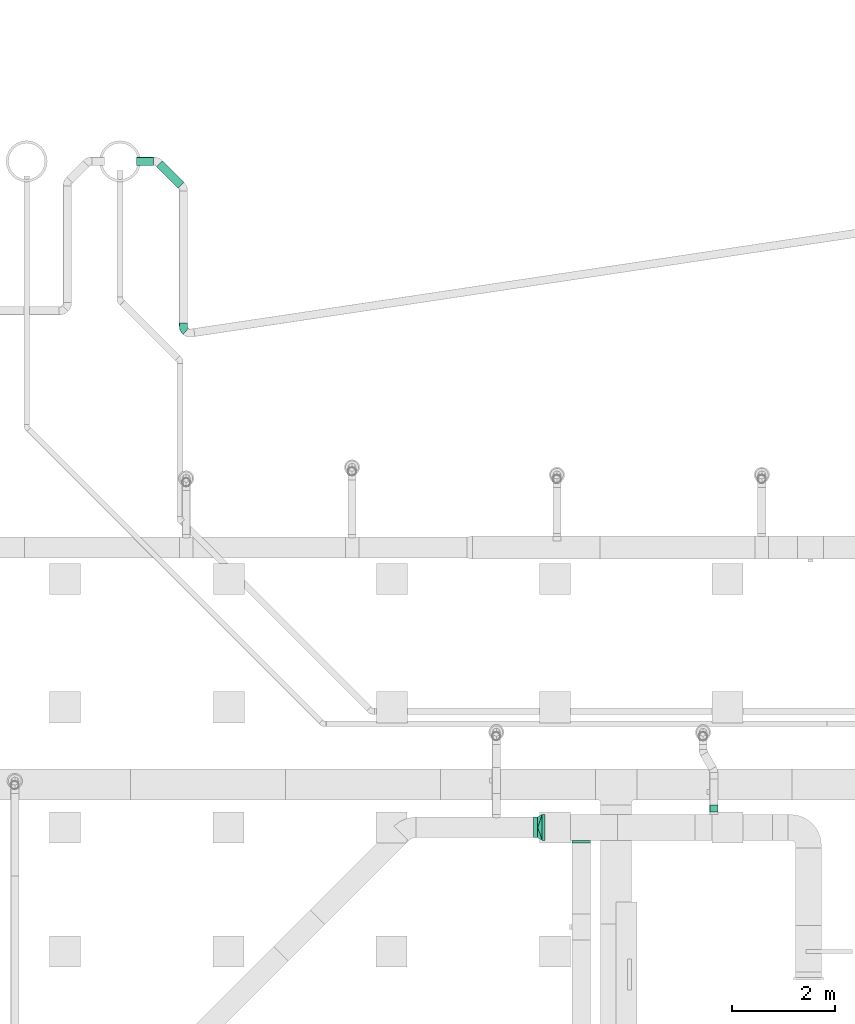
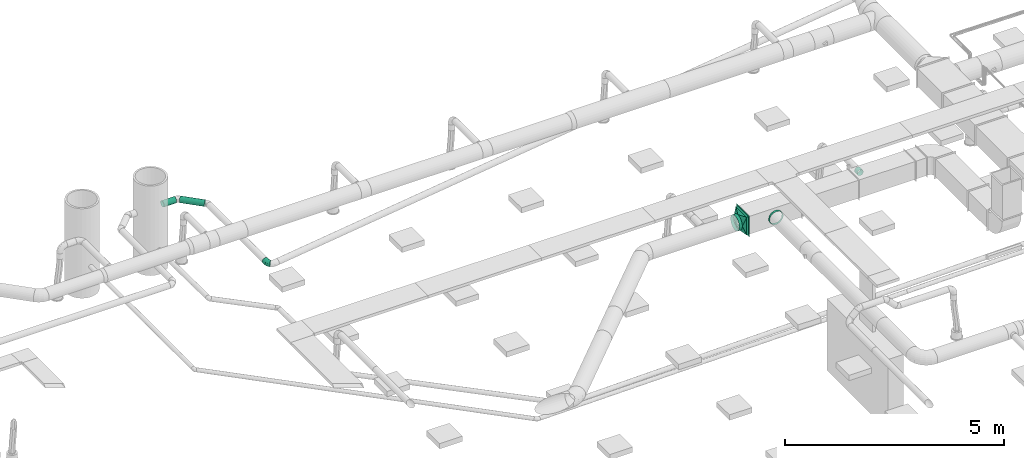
# One storey, part 309 of 374: 4 flow segments, 2 flow fittings.
"""IFC2X3 building model written with IfcOpenShell, lengths in metres."""

from ifc_helpers import new_model, si_unit, direction, origin, place, context, subcontext, project, spatial, open_shell, surface_model, source, transform, mapped, element, save


model = new_model("IFC2X3")

# Units and contexts
model_context = context("Model", 3, precision=1e-05, world=origin(), true_north=direction((-0.4480736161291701, 0.8939966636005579)))
body_context = subcontext(model_context, "Body", "Model", "MODEL_VIEW")
ifc_project = project(units=[si_unit("LENGTHUNIT", "METRE"), si_unit("AREAUNIT", "SQUARE_METRE"), si_unit("VOLUMEUNIT", "CUBIC_METRE"), si_unit("PLANEANGLEUNIT", "RADIAN"), si_unit("THERMODYNAMICTEMPERATUREUNIT", "KELVIN"), si_unit("MASSUNIT", "GRAM", prefix="KILO"), si_unit("TIMEUNIT", "SECOND")], contexts=[model_context])

# Site, building, storey
site_placement = place(None, origin())
site = spatial("IfcSite", under=ifc_project, at=site_placement, Name="Site 1", CompositionType="ELEMENT")
building_placement = place(site_placement, origin())
building = spatial("IfcBuilding", under=site, at=building_placement, Name="Undefined", CompositionType="ELEMENT")
storey_placement = place(building_placement, origin())
storey = spatial("IfcBuildingStorey", under=building, at=storey_placement, Name="Rez de chauss\x8ee", CompositionType="ELEMENT", Elevation=0.0)

# Flow segment
shared_shape_1 = source(origin(), body_context, "Body", "SurfaceModel", [
    surface_model("IfcFaceBasedSurfaceModel", [(0.589931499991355, 0.0, 0.0), (0.5899314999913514, 0.020884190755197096, -8.8817842e-16), (0.0, 0.020884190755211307, 0.0), (0.0, 0.0, 0.0), (0.5899314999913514, 0.04105676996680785, -0.005405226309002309), (0.0, 0.04105676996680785, -0.005405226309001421), (0.589931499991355, 0.059143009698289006, -0.015847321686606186), (0.0, 0.05914300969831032, -0.015847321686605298), (0.5899314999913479, 0.07391036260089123, -0.030614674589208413), (0.0, 0.07391036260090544, -0.030614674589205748), (0.5899314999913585, 0.08435245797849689, -0.048700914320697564), (0.0, 0.0843524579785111, -0.048700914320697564), (0.589931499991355, 0.08975768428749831, -0.06887349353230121), (0.0, 0.08975768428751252, -0.06887349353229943), (0.5899314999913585, 0.08975768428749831, -0.08975768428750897), (0.0, 0.08975768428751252, -0.08975768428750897), (0.5899314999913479, 0.08435245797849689, -0.1099302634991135), (0.0, 0.0843524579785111, -0.10993026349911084), (0.589931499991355, 0.07391036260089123, -0.12801650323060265), (0.0, 0.07391036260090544, -0.12801650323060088), (0.5899314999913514, 0.05914300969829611, -0.142783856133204), (0.0, 0.05914300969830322, -0.1427838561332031), (0.5899314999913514, 0.041056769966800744, -0.15322595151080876), (0.0, 0.04105676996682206, -0.15322595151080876), (0.589931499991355, 0.0208841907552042, -0.15863117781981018), (0.0, 0.020884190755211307, -0.15863117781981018), (0.589931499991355, 0.0, -0.15863117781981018), (0.0, 7.105427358e-15, -0.15863117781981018), (0.5899314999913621, -0.020172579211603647, -0.15322595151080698), (0.0, -0.020172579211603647, -0.15322595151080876), (0.5899314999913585, -0.038258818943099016, -0.1427838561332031), (0.0, -0.038258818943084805, -0.14278385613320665), (0.589931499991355, -0.05302617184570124, -0.12801650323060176), (0.0, -0.05302617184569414, -0.12801650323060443), (0.589931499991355, -0.0634682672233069, -0.10993026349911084), (0.0, -0.06346826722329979, -0.10993026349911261), (0.589931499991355, -0.06887349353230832, -0.08975768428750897), (0.0, -0.06887349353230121, -0.08975768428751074), (0.589931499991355, -0.06887349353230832, -0.06887349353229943), (0.0, -0.06887349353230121, -0.06887349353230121), (0.589931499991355, -0.0634682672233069, -0.048700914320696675), (0.0, -0.06346826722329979, -0.04870091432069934), (0.5899314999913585, -0.05302617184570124, -0.030614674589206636), (0.0, -0.05302617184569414, -0.0306146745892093), (0.5899314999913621, -0.03825881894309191, -0.015847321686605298), (0.0, -0.03825881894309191, -0.015847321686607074), (0.589931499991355, -0.020172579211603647, -0.005405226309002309), (0.0, -0.020172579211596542, -0.005405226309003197)], [open_shell([[[0, 1, 2, 3]], [[1, 4, 5, 2]], [[4, 6, 7, 5]], [[6, 8, 9, 7]], [[8, 10, 11, 9]], [[10, 12, 13, 11]], [[12, 14, 15, 13]], [[14, 16, 17, 15]], [[16, 18, 19, 17]], [[18, 20, 21, 19]], [[20, 22, 23, 21]], [[22, 24, 25, 23]], [[24, 26, 27, 25]], [[26, 28, 29, 27]], [[28, 30, 31, 29]], [[30, 32, 33, 31]], [[32, 34, 35, 33]], [[34, 36, 37, 35]], [[36, 38, 39, 37]], [[38, 40, 41, 39]], [[40, 42, 43, 41]], [[42, 44, 45, 43]], [[44, 46, 47, 45]], [[46, 0, 3, 47]]])]),
])
flow_segment_1_placement = place(storey_placement, origin())
element("IfcFlowSegment", 1, at=flow_segment_1_placement, inside=storey, Name="PE-HD tuyau", ObjectType="PE-HD tuyau", context=body_context, shape_type="MappedRepresentation", body=[
    mapped(shared_shape_1, transform((37.773134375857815, 27.954840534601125, -0.713587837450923), x_axis=(0.7071067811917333, -0.7071067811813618, 0.0), y_axis=(0.7010573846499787, 0.7010573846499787, -0.13052619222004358), z_axis=(0.0922959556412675, 0.0922959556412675, 0.9914448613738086))),
])

# Flow fitting
shared_shape_2 = source(origin(), body_context, "Body", "SurfaceModel", [
    surface_model("IfcFaceBasedSurfaceModel", [(0.06090490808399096, 1.776356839e-15, -1.4210854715e-14), (0.06051561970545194, 0.020880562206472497, -7.105427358e-15), (0.0003892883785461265, 0.02088056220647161, -7.105427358e-15), (0.0, 0.0, 0.0), (-0.057284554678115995, 0.023076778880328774, -0.0168546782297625), (-0.05842066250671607, 0.0022246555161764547, -0.017072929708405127), (-0.10780100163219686, 0.02729004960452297, -0.049189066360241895), (-0.10959124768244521, 0.006492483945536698, -0.049826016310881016), (0.05937428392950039, 0.041035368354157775, -0.005350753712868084), (0.0015306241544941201, 0.041035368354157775, -0.005350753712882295), (-0.05395365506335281, 0.04314820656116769, -0.021565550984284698), (-0.10255226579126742, 0.04720152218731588, -0.05267237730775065), (0.057558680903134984, 0.059090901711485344, -0.015687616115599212), (0.00334622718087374, 0.059090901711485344, -0.015687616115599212), (-0.04865495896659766, 0.06107110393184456, -0.030884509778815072), (-0.09420273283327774, 0.06486996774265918, -0.060038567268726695), (0.05519254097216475, 0.07381670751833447, -0.03030614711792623), (0.00571236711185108, 0.07381670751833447, -0.030306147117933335), (-0.04174956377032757, 0.07562405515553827, -0.04417648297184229), (-0.08332140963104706, 0.07909131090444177, -0.07078564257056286), (0.052437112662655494, 0.08420924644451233, -0.04821011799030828), (0.008467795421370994, 0.08420924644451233, -0.04821011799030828), (-0.033708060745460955, 0.08581530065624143, -0.060535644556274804), (-0.07064984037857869, 0.08889639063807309, -0.08418120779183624), (0.04948017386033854, 0.08956028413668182, -0.06817940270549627), (0.011424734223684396, 0.08956028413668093, -0.06817940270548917), (-0.02507846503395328, 0.09095032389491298, -0.07884714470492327), (-0.05705157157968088, 0.09361700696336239, -0.09931237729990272), (0.04652323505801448, 0.08950515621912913, -0.08885312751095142), (0.014381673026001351, 0.08950515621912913, -0.08885312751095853), (-0.01644886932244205, 0.09067918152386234, -0.09786308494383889), (-0.043453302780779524, 0.0929314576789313, -0.11514798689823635), (0.04376780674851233, 0.0840476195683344, -0.10882241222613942), (0.017137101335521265, 0.0840476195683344, -0.10882241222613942), (-0.008407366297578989, 0.0850203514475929, -0.11628756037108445), (-0.030781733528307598, 0.08688646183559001, -0.1306088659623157), (0.04140166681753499, 0.07355959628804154, -0.12672638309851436), (0.019503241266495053, 0.07355959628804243, -0.12672638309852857), (-0.0015019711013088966, 0.07435947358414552, -0.1328649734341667), (-0.019900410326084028, 0.07589397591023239, -0.1446413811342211), (0.03958606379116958, 0.05875582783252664, -0.14134491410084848), (0.021318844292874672, 0.05875582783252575, -0.14134491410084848), (0.0037967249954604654, 0.059423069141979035, -0.14646560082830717), (-0.01155087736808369, 0.06070311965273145, -0.15628923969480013), (0.03844472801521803, 0.040645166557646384, -0.1516817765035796), (0.022460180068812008, 0.04064516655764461, -0.1516817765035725), (0.007127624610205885, 0.04122902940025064, -0.1561625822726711), (-0.006302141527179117, 0.04234912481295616, -0.16475865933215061), (0.038055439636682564, 0.020461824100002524, -0.1570325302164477), (0.02284946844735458, 0.020461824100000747, -0.1570325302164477), (0.008263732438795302, 0.021017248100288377, -0.16129508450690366), (-0.004511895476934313, 0.02208278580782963, -0.16947246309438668), (0.03844472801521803, -0.0004187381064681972, -0.1570325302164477), (0.022460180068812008, -0.00041873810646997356, -0.1570325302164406), (0.007127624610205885, 0.00016512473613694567, -0.16151333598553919), (-0.006302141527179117, 0.0012852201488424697, -0.1701094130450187), (0.03958606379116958, -0.020573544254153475, -0.15168177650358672), (0.021318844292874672, -0.020573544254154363, -0.15168177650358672), (0.0037967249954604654, -0.019906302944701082, -0.1568024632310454), (-0.01155087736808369, -0.018626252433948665, -0.16662610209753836), (0.04140166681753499, -0.03862907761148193, -0.14134491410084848), (0.019503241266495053, -0.038629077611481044, -0.1413449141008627), (-0.0015019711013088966, -0.03782920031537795, -0.14748350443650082), (-0.019900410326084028, -0.03629469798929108, -0.15925991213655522), (0.04376780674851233, -0.053354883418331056, -0.12672638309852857), (0.017137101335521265, -0.053354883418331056, -0.12672638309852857), (-0.008407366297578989, -0.05238215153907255, -0.1341915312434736), (-0.030781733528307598, -0.05051604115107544, -0.14851283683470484), (0.04652323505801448, -0.06374742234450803, -0.10882241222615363), (0.014381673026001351, -0.06374742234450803, -0.10882241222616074), (-0.01644886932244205, -0.06257339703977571, -0.11783236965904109), (-0.043453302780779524, -0.06032112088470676, -0.13511727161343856), (0.04948017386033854, -0.06909846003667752, -0.08885312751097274), (0.011424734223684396, -0.06909846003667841, -0.08885312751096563), (-0.02507846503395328, -0.06770842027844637, -0.09952086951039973), (-0.05705157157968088, -0.06504173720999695, -0.11998610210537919), (0.052437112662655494, -0.06904333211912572, -0.06817940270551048), (0.008467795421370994, -0.06904333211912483, -0.06817940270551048), (-0.033708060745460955, -0.06743727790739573, -0.08050492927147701), (-0.07064984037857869, -0.06435618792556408, -0.10415049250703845), (0.05519254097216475, -0.0635857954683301, -0.04821011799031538), (0.00571236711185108, -0.0635857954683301, -0.04821011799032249), (-0.04174956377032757, -0.06177844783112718, -0.06208045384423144), (-0.08332140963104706, -0.058311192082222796, -0.08868961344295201), (0.057558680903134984, -0.05309777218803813, -0.030306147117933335), (0.00334622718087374, -0.05309777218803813, -0.030306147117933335), (-0.04865495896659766, -0.05111756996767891, -0.045503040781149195), (-0.09420273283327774, -0.04731870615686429, -0.07465709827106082), (0.05937428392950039, -0.03829400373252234, -0.015687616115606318), (0.0015306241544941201, -0.03829400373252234, -0.01568761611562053), (-0.05395365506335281, -0.036181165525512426, -0.03190241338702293), (-0.10255226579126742, -0.032127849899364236, -0.06300923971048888), (0.06051561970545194, -0.020183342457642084, -0.005350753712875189), (0.0003892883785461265, -0.020183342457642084, -0.005350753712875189), (-0.057284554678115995, -0.01798712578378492, -0.022205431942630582), (-0.10780100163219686, -0.013773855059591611, -0.05453982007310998), (-0.15304771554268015, 0.03238156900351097, -0.0882634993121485), (-0.15483796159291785, 0.011584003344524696, -0.08890044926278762), (-0.14779897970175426, 0.05229304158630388, -0.09174681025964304), (-0.13944944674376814, 0.0699614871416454, -0.09911300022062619), (-0.12856812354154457, 0.08418283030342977, -0.10986007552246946), (-0.11589655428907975, 0.09398791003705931, -0.12325564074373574), (-0.10229828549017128, 0.09870852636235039, -0.1383868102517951), (-0.08870001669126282, 0.0980229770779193, -0.15422241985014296), (-0.076028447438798, 0.09197798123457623, -0.16968329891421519), (-0.06514712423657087, 0.0809854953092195, -0.18371581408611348), (-0.05679759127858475, 0.06579463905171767, -0.19536367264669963), (-0.05154885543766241, 0.04744064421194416, -0.20383309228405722), (-0.04975860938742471, 0.02717430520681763, -0.20854689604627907), (-0.05154885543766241, 0.006376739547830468, -0.2091838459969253), (-0.05679759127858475, -0.013534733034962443, -0.20570053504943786), (-0.06514712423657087, -0.03120317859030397, -0.1983343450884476), (-0.076028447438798, -0.04542452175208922, -0.18758726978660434), (-0.08870001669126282, -0.05522960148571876, -0.17419170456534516), (-0.10229828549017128, -0.059950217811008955, -0.15906053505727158), (-0.11589655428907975, -0.05926466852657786, -0.14322492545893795), (-0.12856812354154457, -0.053219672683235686, -0.1277640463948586), (-0.13944944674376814, -0.042227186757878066, -0.11373153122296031), (-0.14779897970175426, -0.027036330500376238, -0.10208367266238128), (-0.15304771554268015, -0.008682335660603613, -0.09361425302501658)], [open_shell([[[0, 1, 2, 3]], [[3, 2, 4, 5]], [[5, 4, 6, 7]], [[1, 8, 9, 2]], [[2, 9, 10, 4]], [[4, 10, 11, 6]], [[8, 12, 13, 9]], [[9, 13, 14, 10]], [[10, 14, 15, 11]], [[12, 16, 17, 13]], [[13, 17, 18, 14]], [[14, 18, 19, 15]], [[16, 20, 21, 17]], [[17, 21, 22, 18]], [[18, 22, 23, 19]], [[20, 24, 25, 21]], [[21, 25, 26, 22]], [[22, 26, 27, 23]], [[24, 28, 29, 25]], [[25, 29, 30, 26]], [[26, 30, 31, 27]], [[28, 32, 33, 29]], [[29, 33, 34, 30]], [[30, 34, 35, 31]], [[32, 36, 37, 33]], [[33, 37, 38, 34]], [[34, 38, 39, 35]], [[36, 40, 41, 37]], [[37, 41, 42, 38]], [[38, 42, 43, 39]], [[40, 44, 45, 41]], [[41, 45, 46, 42]], [[42, 46, 47, 43]], [[44, 48, 49, 45]], [[45, 49, 50, 46]], [[46, 50, 51, 47]], [[48, 52, 53, 49]], [[49, 53, 54, 50]], [[50, 54, 55, 51]], [[52, 56, 57, 53]], [[53, 57, 58, 54]], [[54, 58, 59, 55]], [[56, 60, 61, 57]], [[57, 61, 62, 58]], [[58, 62, 63, 59]], [[60, 64, 65, 61]], [[61, 65, 66, 62]], [[62, 66, 67, 63]], [[64, 68, 69, 65]], [[65, 69, 70, 66]], [[66, 70, 71, 67]], [[68, 72, 73, 69]], [[69, 73, 74, 70]], [[70, 74, 75, 71]], [[72, 76, 77, 73]], [[73, 77, 78, 74]], [[74, 78, 79, 75]], [[76, 80, 81, 77]], [[77, 81, 82, 78]], [[78, 82, 83, 79]], [[80, 84, 85, 81]], [[81, 85, 86, 82]], [[82, 86, 87, 83]], [[84, 88, 89, 85]], [[85, 89, 90, 86]], [[86, 90, 91, 87]], [[88, 92, 93, 89]], [[89, 93, 94, 90]], [[90, 94, 95, 91]], [[92, 0, 3, 93]], [[93, 3, 5, 94]], [[94, 5, 7, 95]], [[7, 6, 96, 97]], [[6, 11, 98, 96]], [[11, 15, 99, 98]], [[15, 19, 100, 99]], [[19, 23, 101, 100]], [[23, 27, 102, 101]], [[27, 31, 103, 102]], [[31, 35, 104, 103]], [[35, 39, 105, 104]], [[39, 43, 106, 105]], [[43, 47, 107, 106]], [[47, 51, 108, 107]], [[51, 55, 109, 108]], [[55, 59, 110, 109]], [[59, 63, 111, 110]], [[63, 67, 112, 111]], [[67, 71, 113, 112]], [[71, 75, 114, 113]], [[75, 79, 115, 114]], [[79, 83, 116, 115]], [[83, 87, 117, 116]], [[87, 91, 118, 117]], [[91, 95, 119, 118]], [[95, 7, 97, 119]]])]),
])
flow_fitting_1_placement = place(storey_placement, origin())
element("IfcFlowFitting", 2, at=flow_fitting_1_placement, inside=storey, Name="PE-HD coude 90° à grand rayon", ObjectType="PE-HD coude 90° à grand rayon", context=body_context, shape_type="MappedRepresentation", body=[
    mapped(shared_shape_2, transform((38.190958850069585, 24.69489793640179, -0.793587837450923), x_axis=(0.6567459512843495, -0.7541118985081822, 0.0), y_axis=(0.09743938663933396, 0.08485865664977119, 0.9916171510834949), z_axis=(-0.7477902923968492, -0.6512405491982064, 0.12921078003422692))),
])

# Flow segments
shared_shape_3 = source(origin(), body_context, "Body", "SurfaceModel", [
    surface_model("IfcFaceBasedSurfaceModel", [(0.0, 0.020884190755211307, 0.0), (0.0, 0.0, 0.0), (0.3333277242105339, 3.552713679e-15, -4.4408921e-16), (0.3333277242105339, 0.020884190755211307, 0.0), (0.0, -0.020172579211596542, -0.005405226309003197), (0.3333277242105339, -0.020172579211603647, -0.005405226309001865), (0.0, -0.03825881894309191, -0.015847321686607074), (0.3333277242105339, -0.03825881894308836, -0.01584732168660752), (0.0, -0.05302617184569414, -0.0306146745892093), (0.3333277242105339, -0.053026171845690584, -0.030614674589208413), (0.0, -0.06346826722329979, -0.04870091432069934), (0.3333277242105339, -0.06346826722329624, -0.048700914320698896), (0.0, -0.06887349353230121, -0.06887349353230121), (0.3333277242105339, -0.06887349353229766, -0.0688734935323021), (0.0, -0.06887349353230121, -0.08975768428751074), (0.3333277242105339, -0.06887349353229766, -0.0897576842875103), (0.0, -0.06346826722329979, -0.10993026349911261), (0.3333277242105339, -0.06346826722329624, -0.1099302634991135), (0.0, -0.05302617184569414, -0.12801650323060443), (0.3333277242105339, -0.053026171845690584, -0.12801650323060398), (0.0, -0.038258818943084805, -0.14278385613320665), (0.3333277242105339, -0.03825881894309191, -0.142783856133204), (0.0, -0.020172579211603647, -0.15322595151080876), (0.3333277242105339, -0.020172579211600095, -0.1532259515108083), (0.0, 7.105427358e-15, -0.15863117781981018), (0.3333277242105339, 7.105427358e-15, -0.15863117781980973), (0.0, 0.020884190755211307, -0.15863117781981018), (0.3333277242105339, 0.020884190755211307, -0.15863117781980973), (0.0, 0.04105676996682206, -0.15322595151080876), (0.3333277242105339, 0.041056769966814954, -0.15322595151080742), (0.0, 0.05914300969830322, -0.1427838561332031), (0.3333277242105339, 0.05914300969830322, -0.1427838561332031), (0.0, 0.07391036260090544, -0.12801650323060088), (0.3333277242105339, 0.07391036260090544, -0.1280165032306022), (0.0, 0.0843524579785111, -0.10993026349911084), (0.3333277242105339, 0.08435245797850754, -0.10993026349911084), (0.0, 0.08975768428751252, -0.08975768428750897), (0.3333277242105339, 0.08975768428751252, -0.08975768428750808), (0.0, 0.08975768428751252, -0.06887349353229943), (0.3333277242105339, 0.08975768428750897, -0.06887349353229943), (0.0, 0.0843524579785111, -0.048700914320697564), (0.3333277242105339, 0.0843524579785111, -0.04870091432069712), (0.0, 0.07391036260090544, -0.030614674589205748), (0.3333277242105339, 0.07391036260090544, -0.030614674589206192), (0.0, 0.05914300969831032, -0.015847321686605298), (0.3333277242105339, 0.05914300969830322, -0.015847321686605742), (0.0, 0.04105676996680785, -0.005405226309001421), (0.3333277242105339, 0.041056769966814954, -0.005405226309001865)], [open_shell([[[0, 1, 2, 3]], [[1, 4, 5, 2]], [[4, 6, 7, 5]], [[6, 8, 9, 7]], [[8, 10, 11, 9]], [[10, 12, 13, 11]], [[12, 14, 15, 13]], [[14, 16, 17, 15]], [[16, 18, 19, 17]], [[18, 20, 21, 19]], [[20, 22, 23, 21]], [[22, 24, 25, 23]], [[24, 26, 27, 25]], [[26, 28, 29, 27]], [[28, 30, 31, 29]], [[30, 32, 33, 31]], [[32, 34, 35, 33]], [[34, 36, 37, 35]], [[36, 38, 39, 37]], [[38, 40, 41, 39]], [[40, 42, 43, 41]], [[42, 44, 45, 43]], [[44, 46, 47, 45]], [[46, 0, 3, 47]]])]),
])
flow_segment_2_placement = place(storey_placement, origin())
element("IfcFlowSegment", 3, at=flow_segment_2_placement, inside=storey, Name="PE-HD tuyau", ObjectType="PE-HD tuyau", context=body_context, shape_type="MappedRepresentation", body=[
    mapped(shared_shape_3, transform((37.66059895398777, 27.980733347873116, -0.8708619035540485), x_axis=(-1.0, 0.0, 0.0), y_axis=(0.0, 0.9914448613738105, -0.13052619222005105), z_axis=(9.56658874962e-13, -0.13052619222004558, -0.9914448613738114))),
])
shared_shape_4 = source(origin(), body_context, "Body", "SurfaceModel", [
    surface_model("IfcFaceBasedSurfaceModel", [(0.0, 0.020884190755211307, 0.0), (0.0, 0.0, 0.0), (0.13409351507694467, 0.0, 1.776356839e-15), (0.13409351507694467, 0.020884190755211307, 1.776356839e-15), (0.0, -0.020172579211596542, -0.005405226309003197), (0.13409351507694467, -0.020172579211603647, -0.005405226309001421), (0.0, -0.03825881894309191, -0.015847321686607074), (0.13409351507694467, -0.038258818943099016, -0.015847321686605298), (0.0, -0.05302617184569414, -0.0306146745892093), (0.13409351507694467, -0.05302617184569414, -0.030614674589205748), (0.0, -0.06346826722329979, -0.04870091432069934), (0.13409351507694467, -0.06346826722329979, -0.048700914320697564), (0.0, -0.06887349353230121, -0.06887349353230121), (0.13409351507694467, -0.06887349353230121, -0.06887349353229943), (0.0, -0.06887349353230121, -0.08975768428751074), (0.13409351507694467, -0.06887349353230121, -0.08975768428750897), (0.0, -0.06346826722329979, -0.10993026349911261), (0.13409351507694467, -0.06346826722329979, -0.10993026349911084), (0.0, -0.05302617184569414, -0.12801650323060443), (0.13409351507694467, -0.05302617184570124, -0.12801650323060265), (0.0, -0.038258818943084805, -0.14278385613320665), (0.13409351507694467, -0.03825881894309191, -0.14278385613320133), (0.0, -0.020172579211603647, -0.15322595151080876), (0.13409351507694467, -0.020172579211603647, -0.15322595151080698), (0.0, 7.105427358e-15, -0.15863117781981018), (0.13409351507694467, 0.0, -0.1586311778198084), (0.0, 0.020884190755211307, -0.15863117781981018), (0.13409351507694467, 0.020884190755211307, -0.1586311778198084), (0.0, 0.04105676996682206, -0.15322595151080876), (0.13409351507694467, 0.041056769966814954, -0.15322595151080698), (0.0, 0.05914300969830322, -0.1427838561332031), (0.13409351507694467, 0.05914300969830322, -0.14278385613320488), (0.0, 0.07391036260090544, -0.12801650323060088), (0.13409351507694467, 0.07391036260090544, -0.12801650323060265), (0.0, 0.0843524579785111, -0.10993026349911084), (0.13409351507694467, 0.08435245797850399, -0.10993026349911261), (0.0, 0.08975768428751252, -0.08975768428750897), (0.13409351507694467, 0.08975768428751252, -0.08975768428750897), (0.0, 0.08975768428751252, -0.06887349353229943), (0.13409351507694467, 0.08975768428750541, -0.06887349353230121), (0.0, 0.0843524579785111, -0.048700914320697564), (0.13409351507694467, 0.0843524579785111, -0.048700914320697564), (0.0, 0.07391036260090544, -0.030614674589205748), (0.13409351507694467, 0.07391036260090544, -0.030614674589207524), (0.0, 0.05914300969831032, -0.015847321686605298), (0.13409351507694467, 0.05914300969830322, -0.015847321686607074), (0.0, 0.04105676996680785, -0.005405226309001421), (0.13409351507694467, 0.041056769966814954, -0.005405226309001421)], [open_shell([[[0, 1, 2, 3]], [[1, 4, 5, 2]], [[4, 6, 7, 5]], [[6, 8, 9, 7]], [[8, 10, 11, 9]], [[10, 12, 13, 11]], [[12, 14, 15, 13]], [[14, 16, 17, 15]], [[16, 18, 19, 17]], [[18, 20, 21, 19]], [[20, 22, 23, 21]], [[22, 24, 25, 23]], [[24, 26, 27, 25]], [[26, 28, 29, 27]], [[28, 30, 31, 29]], [[30, 32, 33, 31]], [[32, 34, 35, 33]], [[34, 36, 37, 35]], [[36, 38, 39, 37]], [[38, 40, 41, 39]], [[40, 42, 43, 41]], [[42, 44, 45, 43]], [[44, 46, 47, 45]], [[46, 0, 3, 47]]])]),
])
flow_segment_3_placement = place(storey_placement, origin())
element("IfcFlowSegment", 4, at=flow_segment_3_placement, inside=storey, Name="Tube", ObjectType="Tube", context=body_context, shape_type="MappedRepresentation", body=[
    mapped(shared_shape_4, transform((48.52130786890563, 15.413573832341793, 3.877274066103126), x_axis=(0.0, 1.0, 0.0), y_axis=(-0.9914448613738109, 0.0, 0.1305261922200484), z_axis=(0.1305261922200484, 0.0, 0.9914448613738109))),
])
shared_shape_5 = source(origin(), body_context, "Body", "SurfaceModel", [
    surface_model("IfcFaceBasedSurfaceModel", [(0.0, 0.046336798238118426, 0.0), (0.0, 0.0, 0.0), (0.05000000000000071, 0.0, 0.0), (0.05000000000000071, 0.04633679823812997, -1.33226763e-15), (0.0, -0.044757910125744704, -0.0119928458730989), (0.05000000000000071, -0.04475791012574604, -0.011992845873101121), (0.0, -0.08488675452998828, -0.035161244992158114), (0.05000000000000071, -0.08488675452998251, -0.03516124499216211), (0.0, -0.11765181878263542, -0.06792630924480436), (0.05000000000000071, -0.1176518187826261, -0.06792630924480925), (0.0, -0.1408202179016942, -0.10805515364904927), (0.05000000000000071, -0.14082021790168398, -0.10805515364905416), (0.0, -0.15281306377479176, -0.15281306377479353), (0.05000000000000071, -0.15281306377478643, -0.15281306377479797), (0.0, -0.1528130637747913, -0.19914986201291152), (0.05000000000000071, -0.15281306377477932, -0.19914986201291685), (0.0, -0.14082021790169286, -0.24390777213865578), (0.05000000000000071, -0.14082021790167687, -0.24390777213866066), (0.0, -0.11765181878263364, -0.2840366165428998), (0.05000000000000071, -0.11765181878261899, -0.28403661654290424), (0.0, -0.0848867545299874, -0.31680168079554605), (0.05000000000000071, -0.08488675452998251, -0.3168016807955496), (0.0, -0.044757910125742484, -0.3399700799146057), (0.05000000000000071, -0.044757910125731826, -0.3399700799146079), (0.0, 1.776356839e-15, -0.35196292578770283), (0.05000000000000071, 2.1316282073e-14, -0.35196292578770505), (0.0, 0.0463367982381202, -0.3519629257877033), (0.05000000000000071, 0.04633679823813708, -0.35196292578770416), (0.0, 0.09109470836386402, -0.3399700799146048), (0.05000000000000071, 0.09109470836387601, -0.3399700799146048), (0.0, 0.13122355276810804, -0.31680168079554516), (0.05000000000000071, 0.1312235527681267, -0.31680168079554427), (0.0, 0.16398861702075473, -0.2840366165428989), (0.05000000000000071, 0.16398861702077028, -0.28403661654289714), (0.0, 0.18715701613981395, -0.243907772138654), (0.05000000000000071, 0.18715701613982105, -0.24390777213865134), (0.0, 0.19914986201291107, -0.19914986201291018), (0.04999999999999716, 0.19914986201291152, -0.1991498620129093), (0.0, 0.19914986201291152, -0.15281306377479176), (0.05000000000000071, 0.1991498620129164, -0.15281306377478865), (0.0, 0.18715701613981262, -0.1080551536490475), (0.05000000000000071, 0.18715701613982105, -0.10805515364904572), (0.0, 0.1639886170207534, -0.06792630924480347), (0.05000000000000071, 0.16398861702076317, -0.06792630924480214), (0.0, 0.1312235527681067, -0.03516124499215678), (0.05000000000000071, 0.13122355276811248, -0.03516124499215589), (0.0, 0.09109470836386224, -0.011992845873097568), (0.05000000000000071, 0.0910947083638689, -0.011992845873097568)], [open_shell([[[0, 1, 2, 3]], [[1, 4, 5, 2]], [[4, 6, 7, 5]], [[6, 8, 9, 7]], [[8, 10, 11, 9]], [[10, 12, 13, 11]], [[12, 14, 15, 13]], [[14, 16, 17, 15]], [[16, 18, 19, 17]], [[18, 20, 21, 19]], [[20, 22, 23, 21]], [[22, 24, 25, 23]], [[24, 26, 27, 25]], [[26, 28, 29, 27]], [[28, 30, 31, 29]], [[30, 32, 33, 31]], [[32, 34, 35, 33]], [[34, 36, 37, 35]], [[36, 38, 39, 37]], [[38, 40, 41, 39]], [[40, 42, 43, 41]], [[42, 44, 45, 43]], [[44, 46, 47, 45]], [[46, 0, 3, 47]]])]),
])
flow_segment_4_placement = place(storey_placement, origin())
element("IfcFlowSegment", 5, at=flow_segment_4_placement, inside=storey, Name="Piquage équerre sur plat", ObjectType="Piquage équerre sur plat", context=body_context, shape_type="MappedRepresentation", body=[
    mapped(shared_shape_5, transform((45.98215758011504, 14.863573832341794, 3.6285481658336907), x_axis=(0.0, -1.0, 0.0), y_axis=(-0.9914448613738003, 0.0, -0.13052619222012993), z_axis=(0.130526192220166, 0.0, -0.9914448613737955))),
])

# Flow fitting
shared_shape_6 = source(origin(), body_context, "Body", "SurfaceModel", [
    surface_model("IfcFaceBasedSurfaceModel", [(0.0, 0.0, 0.0), (0.5800000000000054, 0.0, 0.0), (0.5400000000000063, 0.040000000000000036, 0.0), (0.04000000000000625, 0.040000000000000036, 0.0), (0.5800000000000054, 0.5800000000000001, 0.0), (0.5400000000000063, 0.54, 0.0), (0.0, 0.5800000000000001, 0.0), (0.04000000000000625, 0.54, 0.0), (0.04000000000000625, 0.040000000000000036, -0.0470000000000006), (0.21346331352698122, 0.10522409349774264, -0.13360254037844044), (0.28999999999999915, 0.08999999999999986, -0.13360254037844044), (0.14857864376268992, 0.14857864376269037, -0.13360254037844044), (0.10522409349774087, 0.2134633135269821, -0.13360254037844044), (0.08999999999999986, 0.29000000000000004, -0.13360254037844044), (0.04000000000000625, 0.54, -0.0470000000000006), (0.10522409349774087, 0.3665366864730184, -0.13360254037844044), (0.14857864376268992, 0.43142135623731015, -0.13360254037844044), (0.21346331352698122, 0.4747759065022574, -0.13360254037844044), (0.28999999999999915, 0.4900000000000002, -0.13360254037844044), (0.5400000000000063, 0.54, -0.0470000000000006), (0.36653668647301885, 0.4747759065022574, -0.13360254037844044), (0.43142135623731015, 0.43142135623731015, -0.13360254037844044), (0.4747759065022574, 0.3665366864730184, -0.13360254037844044), (0.4900000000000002, 0.29000000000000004, -0.13360254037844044), (0.5400000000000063, 0.040000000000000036, -0.0470000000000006), (0.4747759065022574, 0.2134633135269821, -0.13360254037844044), (0.43142135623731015, 0.1485786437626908, -0.13360254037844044), (0.36653668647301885, 0.10522409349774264, -0.13360254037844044), (0.04000000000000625, 0.54, 0.0030000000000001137), (0.04000000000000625, 0.040000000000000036, 0.0030000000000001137), (0.5400000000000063, 0.040000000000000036, 0.0030000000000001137), (0.5400000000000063, 0.54, 0.0030000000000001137), (0.2382361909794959, 0.09681483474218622, -0.13360254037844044), (0.2382361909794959, 0.09681483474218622, -0.21360254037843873), (0.28999999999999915, 0.08999999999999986, -0.21360254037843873), (0.1899999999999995, 0.1167949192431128, -0.13360254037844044), (0.1899999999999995, 0.1167949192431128, -0.21360254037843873), (0.14857864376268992, 0.1485786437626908, -0.21360254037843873), (0.11679491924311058, 0.1900000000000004, -0.13360254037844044), (0.11679491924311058, 0.1900000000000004, -0.21360254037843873), (0.09681483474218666, 0.2382361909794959, -0.13360254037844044), (0.09681483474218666, 0.2382361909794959, -0.21360254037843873), (0.08999999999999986, 0.29000000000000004, -0.21360254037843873), (0.09681483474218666, 0.3417638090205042, -0.13360254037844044), (0.09681483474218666, 0.3417638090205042, -0.21360254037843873), (0.11679491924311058, 0.3900000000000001, -0.13360254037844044), (0.11679491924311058, 0.3900000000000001, -0.21360254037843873), (0.14857864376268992, 0.43142135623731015, -0.21360254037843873), (0.1899999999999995, 0.4632050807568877, -0.13360254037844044), (0.1899999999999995, 0.4632050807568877, -0.21360254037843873), (0.2382361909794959, 0.4831851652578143, -0.13360254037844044), (0.2382361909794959, 0.4831851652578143, -0.21360254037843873), (0.28999999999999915, 0.4900000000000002, -0.21360254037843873), (0.3417638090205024, 0.4831851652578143, -0.13360254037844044), (0.3417638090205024, 0.4831851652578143, -0.21360254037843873), (0.3899999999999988, 0.4632050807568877, -0.13360254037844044), (0.3899999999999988, 0.4632050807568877, -0.21360254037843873), (0.43142135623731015, 0.4314213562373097, -0.21360254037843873), (0.4632050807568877, 0.3900000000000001, -0.13360254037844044), (0.4632050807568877, 0.3900000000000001, -0.21360254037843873), (0.4831851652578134, 0.3417638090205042, -0.13360254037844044), (0.4831851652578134, 0.3417638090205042, -0.21360254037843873), (0.4900000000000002, 0.29000000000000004, -0.21360254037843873), (0.4831851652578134, 0.2382361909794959, -0.13360254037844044), (0.4831851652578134, 0.2382361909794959, -0.21360254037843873), (0.4632050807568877, 0.1900000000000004, -0.13360254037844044), (0.4632050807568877, 0.1900000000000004, -0.21360254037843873), (0.43142135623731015, 0.1485786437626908, -0.21360254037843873), (0.3899999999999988, 0.1167949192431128, -0.13360254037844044), (0.3899999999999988, 0.1167949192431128, -0.21360254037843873), (0.3417638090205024, 0.09681483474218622, -0.13360254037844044), (0.3417638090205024, 0.09681483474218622, -0.21360254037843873)], [open_shell([[[0, 1, 2, 3]], [[1, 4, 5, 2]], [[6, 4, 5, 7]], [[0, 6, 7, 3]], [[8, 9, 10]], [[8, 11, 9]], [[8, 12, 11]], [[8, 13, 12]], [[8, 14, 13]], [[14, 15, 13]], [[14, 16, 15]], [[14, 17, 16]], [[14, 18, 17]], [[14, 19, 18]], [[19, 20, 18]], [[19, 21, 20]], [[19, 22, 21]], [[19, 23, 22]], [[19, 24, 23]], [[24, 25, 23]], [[24, 26, 25]], [[24, 27, 26]], [[24, 10, 27]], [[24, 8, 10]], [[28, 14, 8, 29]], [[29, 8, 24, 30]], [[30, 24, 19, 31]], [[31, 19, 14, 28]], [[10, 32, 33, 34]], [[32, 35, 36, 33]], [[35, 11, 37, 36]], [[11, 38, 39, 37]], [[38, 40, 41, 39]], [[40, 13, 42, 41]], [[13, 43, 44, 42]], [[43, 45, 46, 44]], [[45, 16, 47, 46]], [[16, 48, 49, 47]], [[48, 50, 51, 49]], [[50, 18, 52, 51]], [[18, 53, 54, 52]], [[53, 55, 56, 54]], [[55, 21, 57, 56]], [[21, 58, 59, 57]], [[58, 60, 61, 59]], [[60, 23, 62, 61]], [[23, 63, 64, 62]], [[63, 65, 66, 64]], [[65, 26, 67, 66]], [[26, 68, 69, 67]], [[68, 70, 71, 69]], [[70, 10, 34, 71]]])]),
])
flow_fitting_2_placement = place(storey_placement, origin())
element("IfcFlowFitting", 6, at=flow_fitting_2_placement, inside=storey, Name="Réduction symétrique", ObjectType="Réduction symétrique", context=body_context, shape_type="MappedRepresentation", body=[
    mapped(shared_shape_6, transform((45.22747033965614, 15.403573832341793, 4.090000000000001), x_axis=(0.0, -1.0, 0.0), y_axis=(0.0, 0.0, -1.0), z_axis=(1.0, 0.0, 0.0))),
])

save(model, "model.ifc")
